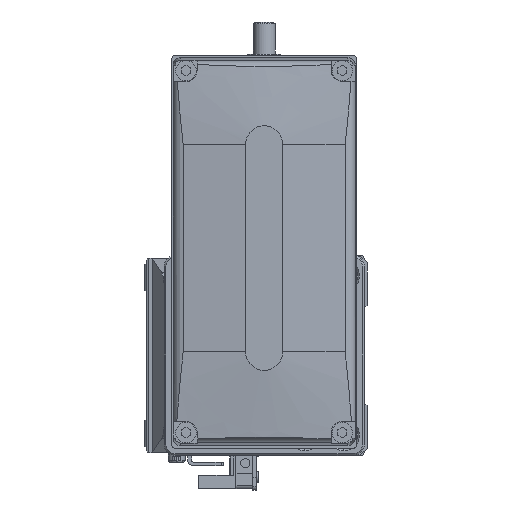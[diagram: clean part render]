
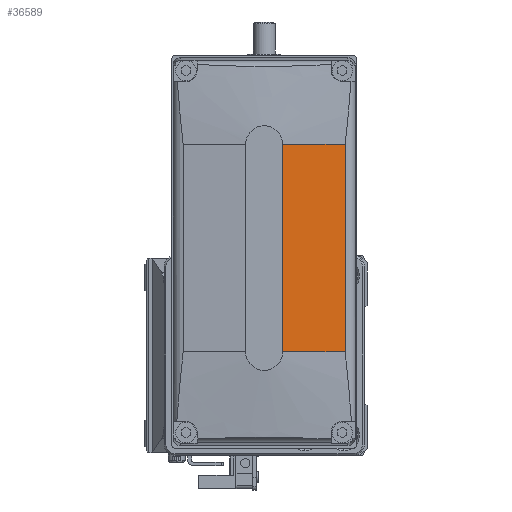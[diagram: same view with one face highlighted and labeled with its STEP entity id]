
A CAD part, left-side view. The second image highlights one B-rep face of the part: STEP entity #36589.
In plain terms, the highlighted planar face has unit normal (-0.996, -0.087, 0) as drawn and (-0.996, 0, -0.087) by its records, which use the part's own axes.
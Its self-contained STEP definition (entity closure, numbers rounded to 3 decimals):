
#595 = CARTESIAN_POINT ( 'NONE',  ( -50., 128., -5. ) ) ;
#2466 = FACE_OUTER_BOUND ( 'NONE', #25183, .T. ) ;
#5060 = EDGE_CURVE ( 'NONE', #9271, #26200, #21089, .T. ) ;
#5283 = EDGE_CURVE ( 'NONE', #37060, #29719, #16490, .T. ) ;
#8570 = CARTESIAN_POINT ( 'NONE',  ( -50., -28., -5. ) ) ;
#9271 = VERTEX_POINT ( 'NONE', #8570 ) ;
#9430 = DIRECTION ( 'NONE',  ( 0.087, 0., -0.996 ) ) ;
#9573 = EDGE_CURVE ( 'NONE', #29719, #26200, #10205, .T. ) ;
#9596 = AXIS2_PLACEMENT_3D ( 'NONE', #18441, #15100, #17935 ) ;
#10205 = LINE ( 'NONE', #22645, #14336 ) ;
#11614 = ORIENTED_EDGE ( 'NONE', *, *, #5283, .F. ) ;
#12810 = ORIENTED_EDGE ( 'NONE', *, *, #9573, .F. ) ;
#14336 = VECTOR ( 'NONE', #37151, 1000. ) ;
#15076 = CARTESIAN_POINT ( 'NONE',  ( -48.525, 28., -21.861 ) ) ;
#15100 = DIRECTION ( 'NONE',  ( -0.996, 0., -0.087 ) ) ;
#15636 = LINE ( 'NONE', #35621, #21150 ) ;
#16490 = LINE ( 'NONE', #18982, #24758 ) ;
#17935 = DIRECTION ( 'NONE',  ( -0.087, 0., 0.996 ) ) ;
#18441 = CARTESIAN_POINT ( 'NONE',  ( -50., 128., -5. ) ) ;
#18982 = CARTESIAN_POINT ( 'NONE',  ( -48.525, 128., -21.861 ) ) ;
#21089 = LINE ( 'NONE', #595, #32023 ) ;
#21150 = VECTOR ( 'NONE', #9430, 1000. ) ;
#21293 = DIRECTION ( 'NONE',  ( 0., 1., 0. ) ) ;
#22180 = DIRECTION ( 'NONE',  ( 0., 1., 0. ) ) ;
#22645 = CARTESIAN_POINT ( 'NONE',  ( 43606.406, 28., -499000. ) ) ;
#24429 = EDGE_CURVE ( 'NONE', #9271, #37060, #15636, .T. ) ;
#24758 = VECTOR ( 'NONE', #22180, 1000. ) ;
#25183 = EDGE_LOOP ( 'NONE', ( #12810, #11614, #35941, #31322 ) ) ;
#26200 = VERTEX_POINT ( 'NONE', #30325 ) ;
#29719 = VERTEX_POINT ( 'NONE', #15076 ) ;
#30325 = CARTESIAN_POINT ( 'NONE',  ( -50., 28., -5. ) ) ;
#31322 = ORIENTED_EDGE ( 'NONE', *, *, #5060, .T. ) ;
#32023 = VECTOR ( 'NONE', #21293, 1000. ) ;
#32583 = PLANE ( 'NONE',  #9596 ) ;
#35234 = CARTESIAN_POINT ( 'NONE',  ( -48.525, -28., -21.861 ) ) ;
#35621 = CARTESIAN_POINT ( 'NONE',  ( 43606.406, -28., -499000. ) ) ;
#35941 = ORIENTED_EDGE ( 'NONE', *, *, #24429, .F. ) ;
#36589 = ADVANCED_FACE ( 'NONE', ( #2466 ), #32583, .T. ) ;
#37060 = VERTEX_POINT ( 'NONE', #35234 ) ;
#37151 = DIRECTION ( 'NONE',  ( -0.087, 0., 0.996 ) ) ;
